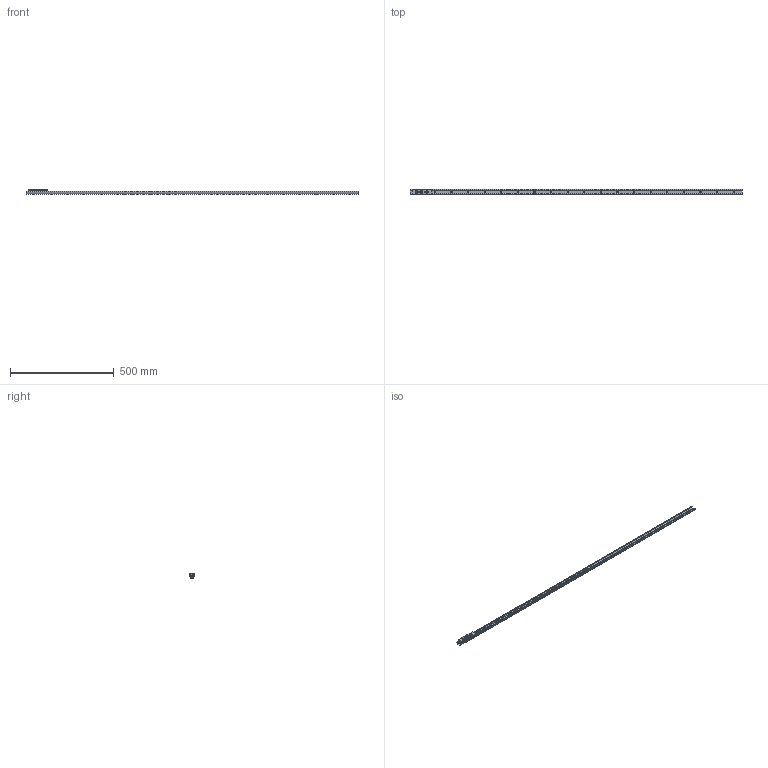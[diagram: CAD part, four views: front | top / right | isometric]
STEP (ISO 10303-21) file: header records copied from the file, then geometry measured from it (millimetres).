
FILE_DESCRIPTION( ( 'STEP AP214' ), '1' );
FILE_NAME( 'p:/temp/worker_18/temp/exporttempdir_2064_386_QVRJK/format_0/TEN26-1600-CEN26-92.stp', '2020-05-08T18:39:56', ( 'License CC BY-ND 4.0' ), ( 'CADENAS' ), ' ', 'PARTsolutions', ' ' );
FILE_SCHEMA( ( 'AUTOMOTIVE_DESIGN { 1 0 10303 214 1 1 1 1 }' ) );
Length unit declared in the file: millimetre
Products named in the file (6): TEN26-1600-CEN26-92; _TEN 26-1600; _CEN26-92_1; _RLN26(11.2_M5); _RLA26(11.2_M5); _LAN-26
Assembly tree (8 placements, depth 2):
  TEN26-1600-CEN26-92
    _TEN 26-1600
    _CEN26-92_1
    _RLN26(11.2_M5)  x2
    _RLA26(11.2_M5)
    _LAN-26  x3
Bounding box: 1600 x 26 x 22 mm (x, y, z)
Volume: 178700.9 mm3; surface area: 150638.5 mm2
Topology: 8 solids, 8 shells, 253 faces, 561 edges, 351 vertices
Faces by surface type: plane 131, cylinder 89, cone 24, bspline 9
Full cylindrical faces by diameter (mm): 2.5 x2, 4.134 x5, 4.5 x3, 5 x6, 6.5 x20, 9.3 x3, 11.2 x6, 11.6 x6, 15.7 x6, 16.7 x6
Entity records: 6098 total; most frequent: CARTESIAN_POINT 885, DIRECTION 832, ORIENTED_EDGE 614, AXIS2_PLACEMENT_3D 352, EDGE_LOOP 312, EDGE_CURVE 307, VERTEX_POINT 237, FACE_OUTER_BOUND 224
